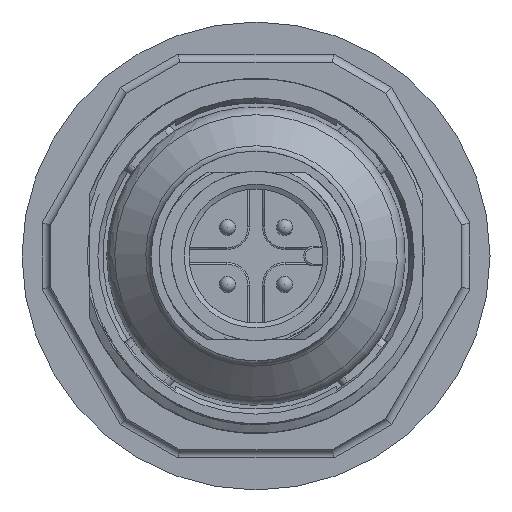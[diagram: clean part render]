
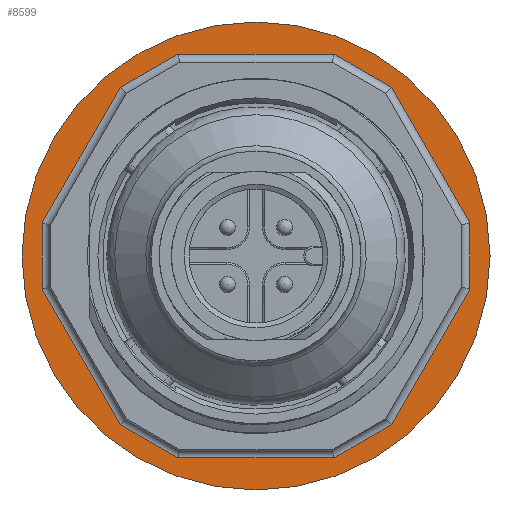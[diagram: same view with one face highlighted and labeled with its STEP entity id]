
A CAD part, front view. The second image highlights one B-rep face of the part: STEP entity #8599.
In plain terms, the highlighted planar face has unit normal (0, -1, 0).
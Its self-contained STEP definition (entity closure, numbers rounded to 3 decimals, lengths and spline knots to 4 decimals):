
#898=FACE_BOUND('',#1589,.T.);
#940=PLANE('',#9181);
#1107=FACE_OUTER_BOUND('',#1588,.T.);
#1588=EDGE_LOOP('',(#5588));
#1589=EDGE_LOOP('',(#5589,#5590,#5591,#5592,#5593,#5594,#5595,#5596,#5597,
#5598,#5599,#5600));
#2051=LINE('',#11554,#2474);
#2053=LINE('',#11562,#2476);
#2055=LINE('',#11568,#2478);
#2057=LINE('',#11574,#2480);
#2059=LINE('',#11580,#2482);
#2061=LINE('',#11586,#2484);
#2063=LINE('',#11592,#2486);
#2065=LINE('',#11598,#2488);
#2067=LINE('',#11604,#2490);
#2069=LINE('',#11610,#2492);
#2071=LINE('',#11616,#2494);
#2073=LINE('',#11621,#2496);
#2474=VECTOR('',#9905,1.);
#2476=VECTOR('',#9913,1.);
#2478=VECTOR('',#9919,1.);
#2480=VECTOR('',#9925,1.);
#2482=VECTOR('',#9931,1.);
#2484=VECTOR('',#9937,1.);
#2486=VECTOR('',#9943,1.);
#2488=VECTOR('',#9949,1.);
#2490=VECTOR('',#9955,1.);
#2492=VECTOR('',#9961,1.);
#2494=VECTOR('',#9967,1.);
#2496=VECTOR('',#9973,1.);
#2917=CIRCLE('',#9182,1.45);
#3165=VERTEX_POINT('',#11552);
#3166=VERTEX_POINT('',#11553);
#3169=VERTEX_POINT('',#11561);
#3171=VERTEX_POINT('',#11567);
#3173=VERTEX_POINT('',#11573);
#3175=VERTEX_POINT('',#11579);
#3177=VERTEX_POINT('',#11585);
#3179=VERTEX_POINT('',#11591);
#3181=VERTEX_POINT('',#11597);
#3183=VERTEX_POINT('',#11603);
#3185=VERTEX_POINT('',#11609);
#3187=VERTEX_POINT('',#11615);
#3196=VERTEX_POINT('',#11650);
#4077=EDGE_CURVE('',#3165,#3166,#2051,.T.);
#4081=EDGE_CURVE('',#3166,#3169,#2053,.T.);
#4084=EDGE_CURVE('',#3169,#3171,#2055,.T.);
#4087=EDGE_CURVE('',#3171,#3173,#2057,.T.);
#4090=EDGE_CURVE('',#3173,#3175,#2059,.T.);
#4093=EDGE_CURVE('',#3175,#3177,#2061,.T.);
#4096=EDGE_CURVE('',#3177,#3179,#2063,.T.);
#4099=EDGE_CURVE('',#3179,#3181,#2065,.T.);
#4102=EDGE_CURVE('',#3181,#3183,#2067,.T.);
#4105=EDGE_CURVE('',#3183,#3185,#2069,.T.);
#4108=EDGE_CURVE('',#3185,#3187,#2071,.T.);
#4111=EDGE_CURVE('',#3187,#3165,#2073,.T.);
#4126=EDGE_CURVE('',#3196,#3196,#2917,.T.);
#5588=ORIENTED_EDGE('',*,*,#4126,.F.);
#5589=ORIENTED_EDGE('',*,*,#4077,.F.);
#5590=ORIENTED_EDGE('',*,*,#4111,.F.);
#5591=ORIENTED_EDGE('',*,*,#4108,.F.);
#5592=ORIENTED_EDGE('',*,*,#4105,.F.);
#5593=ORIENTED_EDGE('',*,*,#4102,.F.);
#5594=ORIENTED_EDGE('',*,*,#4099,.F.);
#5595=ORIENTED_EDGE('',*,*,#4096,.F.);
#5596=ORIENTED_EDGE('',*,*,#4093,.F.);
#5597=ORIENTED_EDGE('',*,*,#4090,.F.);
#5598=ORIENTED_EDGE('',*,*,#4087,.F.);
#5599=ORIENTED_EDGE('',*,*,#4084,.F.);
#5600=ORIENTED_EDGE('',*,*,#4081,.F.);
#8599=ADVANCED_FACE('',(#1107,#898),#940,.F.);
#9181=AXIS2_PLACEMENT_3D('',#11649,#10000,#10001);
#9182=AXIS2_PLACEMENT_3D('',#11651,#10002,#10003);
#9905=DIRECTION('',(0.866,0.,-0.5));
#9913=DIRECTION('',(1.,0.,0.));
#9919=DIRECTION('',(0.866,0.,0.5));
#9925=DIRECTION('',(0.5,0.,0.866));
#9931=DIRECTION('',(0.,0.,1.));
#9937=DIRECTION('',(-0.5,0.,0.866));
#9943=DIRECTION('',(-0.866,0.,0.5));
#9949=DIRECTION('',(-1.,0.,0.));
#9955=DIRECTION('',(-0.866,0.,-0.5));
#9961=DIRECTION('',(-0.5,0.,-0.866));
#9967=DIRECTION('',(0.,0.,-1.));
#9973=DIRECTION('',(0.5,0.,-0.866));
#10000=DIRECTION('center_axis',(0.,1.,0.));
#10001=DIRECTION('ref_axis',(-0.5,0.,0.866));
#10002=DIRECTION('center_axis',(0.,1.,0.));
#10003=DIRECTION('ref_axis',(-0.866,0.,-0.5));
#11552=CARTESIAN_POINT('',(-0.8401,0.33,-1.045));
#11553=CARTESIAN_POINT('',(-0.4849,0.33,-1.25));
#11554=CARTESIAN_POINT('',(-0.5795,0.33,-1.1954));
#11561=CARTESIAN_POINT('',(0.4849,0.33,-1.25));
#11562=CARTESIAN_POINT('',(0.2358,0.33,-1.25));
#11567=CARTESIAN_POINT('',(0.8401,0.33,-1.045));
#11568=CARTESIAN_POINT('',(0.7455,0.33,-1.0996));
#11573=CARTESIAN_POINT('',(1.325,0.33,-0.205));
#11574=CARTESIAN_POINT('',(1.2004,0.33,-0.4208));
#11579=CARTESIAN_POINT('',(1.325,0.33,0.205));
#11580=CARTESIAN_POINT('',(1.325,0.33,0.0958));
#11585=CARTESIAN_POINT('',(0.8401,0.33,1.045));
#11586=CARTESIAN_POINT('',(0.9646,0.33,0.8292));
#11591=CARTESIAN_POINT('',(0.4849,0.33,1.25));
#11592=CARTESIAN_POINT('',(0.5795,0.33,1.1954));
#11597=CARTESIAN_POINT('',(-0.4849,0.33,1.25));
#11598=CARTESIAN_POINT('',(-0.2358,0.33,1.25));
#11603=CARTESIAN_POINT('',(-0.8401,0.33,1.045));
#11604=CARTESIAN_POINT('',(-0.7455,0.33,1.0996));
#11609=CARTESIAN_POINT('',(-1.325,0.33,0.205));
#11610=CARTESIAN_POINT('',(-1.2004,0.33,0.4208));
#11615=CARTESIAN_POINT('',(-1.325,0.33,-0.205));
#11616=CARTESIAN_POINT('',(-1.325,0.33,-0.0958));
#11621=CARTESIAN_POINT('',(-0.9646,0.33,-0.8292));
#11649=CARTESIAN_POINT('Origin',(0.,0.33,0.));
#11650=CARTESIAN_POINT('',(-1.2557,0.33,-0.725));
#11651=CARTESIAN_POINT('Origin',(0.,0.33,0.));
